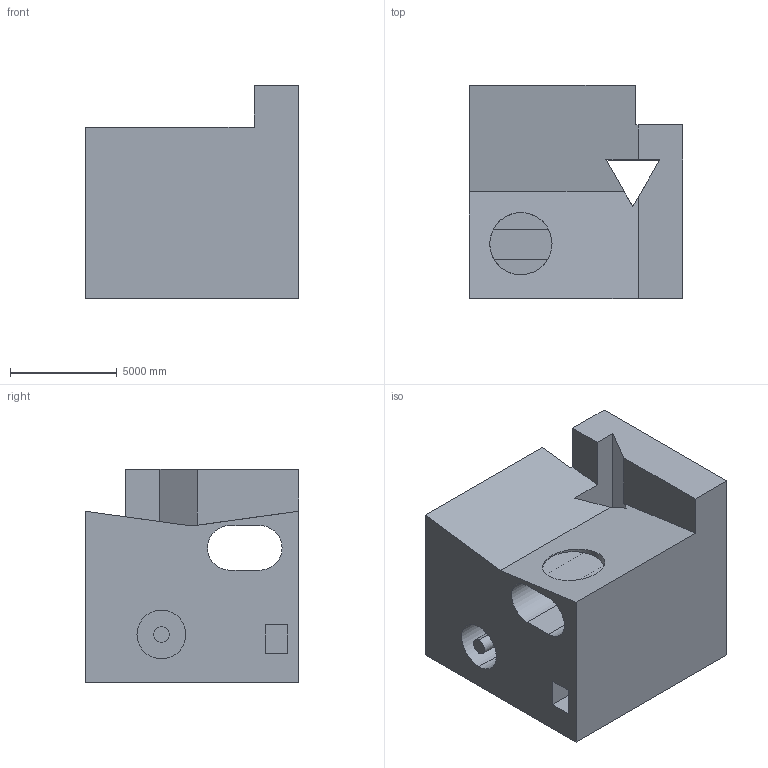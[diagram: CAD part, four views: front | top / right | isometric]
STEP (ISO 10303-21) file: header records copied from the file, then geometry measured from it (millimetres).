
FILE_DESCRIPTION (( 'STEP AP203' ), '1' );
FILE_NAME ('328.STEP', '2022-09-07T15:16:43', ( 'user' ), ( '' ), 'SwSTEP 2.0', 'SolidWorks 2021', '' );
FILE_SCHEMA (( 'CONFIG_CONTROL_DESIGN' ));
Length unit declared in the file: centimetre
Products named in the file (1): 328
Bounding box: 10000 x 10000 x 10000 mm (x, y, z)
Volume: 661985299814.1 mm3; surface area: 763298467.8 mm2
Topology: 1 solids, 1 shells, 33 faces, 84 edges, 56 vertices
Faces by surface type: plane 25, cylinder 8
Entity records: 1077 total; most frequent: CARTESIAN_POINT 180, ORIENTED_EDGE 168, DIRECTION 164, EDGE_CURVE 84, LINE 68, VECTOR 68, VERTEX_POINT 56, AXIS2_PLACEMENT_3D 48
